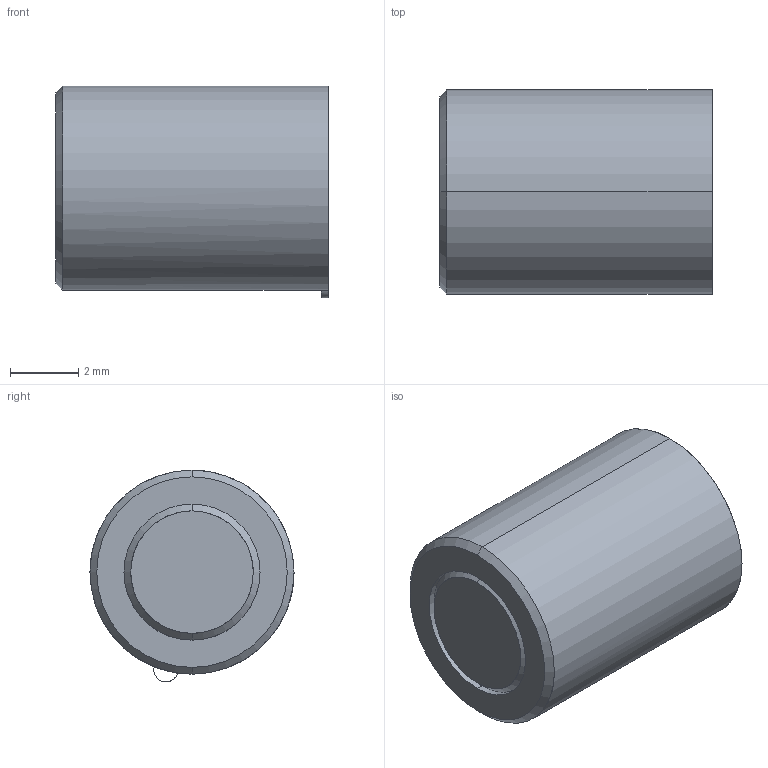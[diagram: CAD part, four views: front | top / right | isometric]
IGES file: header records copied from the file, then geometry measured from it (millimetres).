
Start section: START RECORD GO HERE.
Global section: file name: D375-6-A-DM-FA.igs; native system: DASSAULT SYSTEMES CATIA V5 R20 - www.3ds.com; preprocessor: CATIA Version 5 Release 20 ; author: Utente; organization: NB04-ASUS; date: 20210326.155343; units: millimetre
Bounding box: 8 x 6 x 6.23 mm (x, y, z)
Surface area: 406.6 mm2 (no closed solid volume)
Topology: 0 solids, 0 shells, 216 faces, 1194 edges, 1188 vertices
Faces by surface type: plane 135, revolution 81
